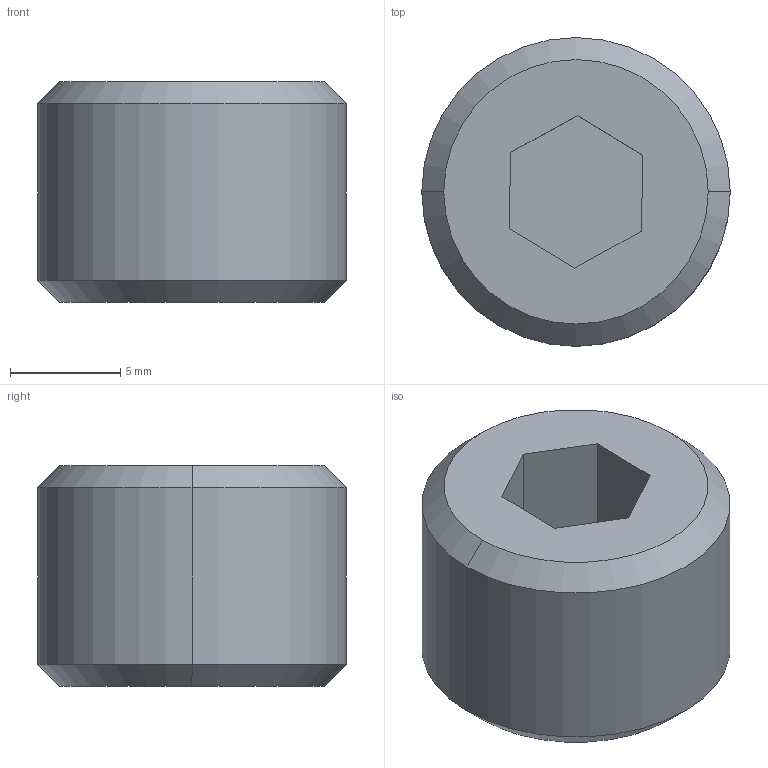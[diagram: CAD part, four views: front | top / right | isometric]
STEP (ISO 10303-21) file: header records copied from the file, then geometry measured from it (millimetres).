
FILE_DESCRIPTION (( 'STEP AP214' ), '1' );
FILE_NAME ('SE15-M14.STEP', '2020-11-02T15:31:19', ( 'August' ), ( '' ), 'SwSTEP 2.0', 'SolidWorks 2018', '' );
FILE_SCHEMA (( 'AUTOMOTIVE_DESIGN' ));
Length unit declared in the file: millimetre
Products named in the file (1): SE15-M14
Bounding box: 14 x 14 x 10 mm (x, y, z)
Volume: 1341.6 mm3; surface area: 797.5 mm2
Topology: 1 solids, 1 shells, 15 faces, 32 edges, 20 vertices
Faces by surface type: plane 9, cone 4, cylinder 2
Entity records: 436 total; most frequent: DIRECTION 72, CARTESIAN_POINT 68, ORIENTED_EDGE 64, EDGE_CURVE 32, VECTOR 24, LINE 24, AXIS2_PLACEMENT_3D 24, VERTEX_POINT 20
